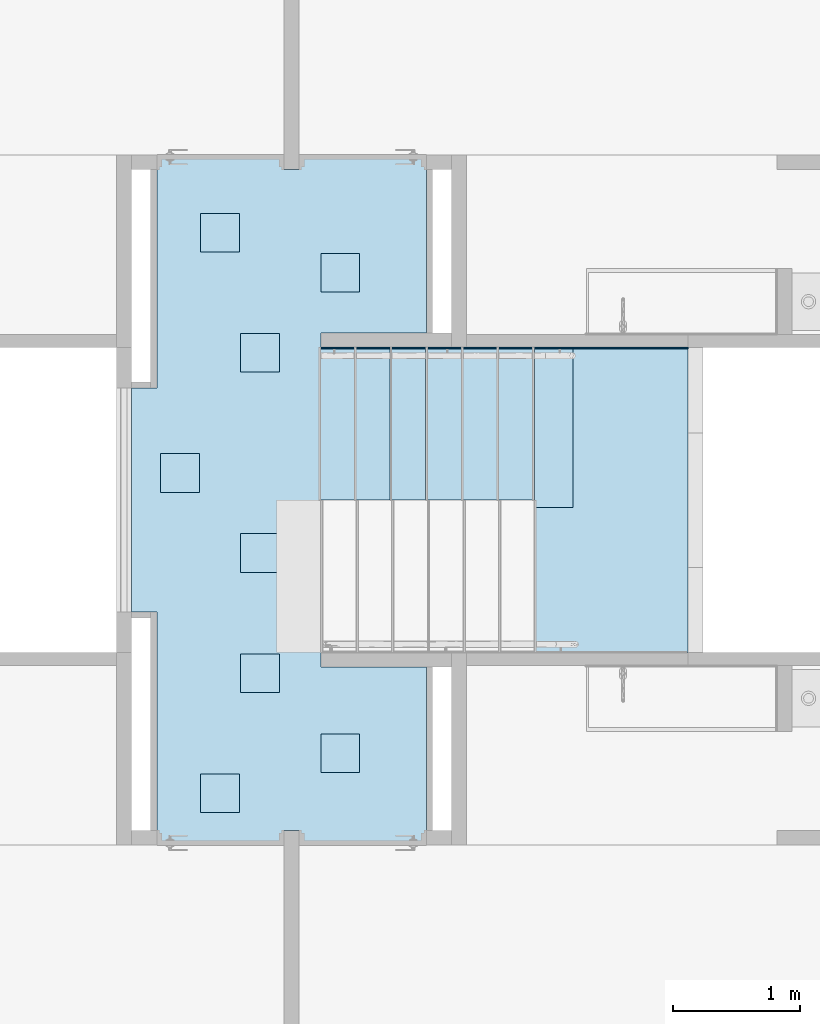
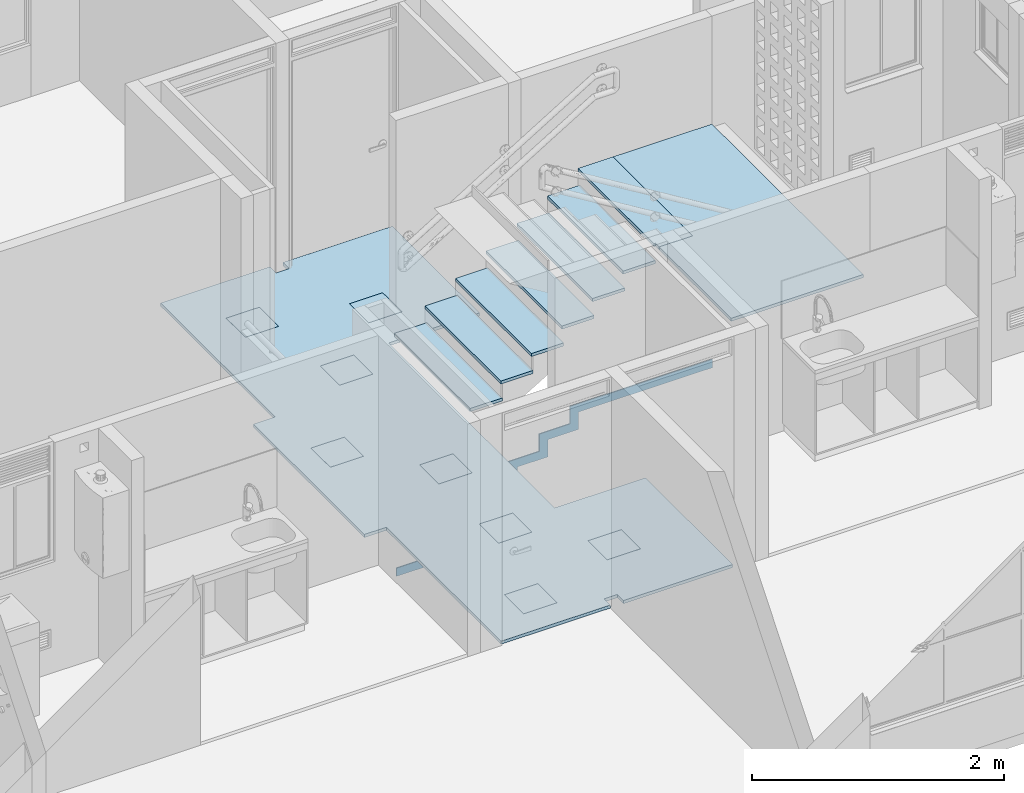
# One storey, part 2 of 48: 11 slabs.
"""IFC4 building model written with IfcOpenShell, lengths in metres."""

from ifc_helpers import new_model, entity, si_unit, converted_unit, derived_unit, direction, frame, origin, place, context, subcontext, project, spatial, indexed_curve, outline, extrude, material, constituent, constituent_set, type_object, element, save


model = new_model("IFC4")

# Units and contexts
model_context = context("Model", 3, precision=1e-05, world=origin(), true_north=direction((6.123031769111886e-17, 1.0)))
body_context = subcontext(model_context, "Body", "Model", "MODEL_VIEW")
ifc_project = project(units=[si_unit("LENGTHUNIT", "METRE"), si_unit("AREAUNIT", "SQUARE_METRE"), si_unit("VOLUMEUNIT", "CUBIC_METRE"), converted_unit("PLANEANGLEUNIT", "DEGREE", entity("IfcRatioMeasure", 0.017453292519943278), si_unit("PLANEANGLEUNIT", "RADIAN"), dimensions=[0, 0, 0, 0, 0, 0, 0]), si_unit("MASSUNIT", "GRAM", prefix="KILO"), derived_unit("MASSDENSITYUNIT", [(si_unit("MASSUNIT", "GRAM", prefix="KILO"), 1), (si_unit("LENGTHUNIT", "METRE"), -3)]), derived_unit("IONCONCENTRATIONUNIT", [(si_unit("MASSUNIT", "GRAM", prefix="KILO"), 1), (si_unit("LENGTHUNIT", "METRE"), -3)]), derived_unit("MOMENTOFINERTIAUNIT", [(si_unit("LENGTHUNIT", "METRE"), 4)]), si_unit("TIMEUNIT", "SECOND"), si_unit("FREQUENCYUNIT", "HERTZ"), si_unit("THERMODYNAMICTEMPERATUREUNIT", "DEGREE_CELSIUS"), derived_unit("THERMALTRANSMITTANCEUNIT", [(si_unit("MASSUNIT", "GRAM", prefix="KILO"), 1), (si_unit("THERMODYNAMICTEMPERATUREUNIT", "KELVIN"), -1), (si_unit("TIMEUNIT", "SECOND"), -3)]), derived_unit("THERMALCONDUCTANCEUNIT", [(si_unit("MASSUNIT", "GRAM", prefix="KILO"), 1), (si_unit("THERMODYNAMICTEMPERATUREUNIT", "KELVIN"), -1), (si_unit("TIMEUNIT", "SECOND"), -3), (si_unit("LENGTHUNIT", "METRE"), 1)]), derived_unit("VOLUMETRICFLOWRATEUNIT", [(si_unit("LENGTHUNIT", "METRE"), 3), (si_unit("TIMEUNIT", "SECOND"), -1)]), derived_unit("MASSFLOWRATEUNIT", [(si_unit("MASSUNIT", "GRAM", prefix="KILO"), 1), (si_unit("TIMEUNIT", "SECOND"), -1)]), derived_unit("ROTATIONALFREQUENCYUNIT", [(si_unit("TIMEUNIT", "SECOND"), -1)]), si_unit("ELECTRICCURRENTUNIT", "AMPERE"), si_unit("ELECTRICVOLTAGEUNIT", "VOLT"), si_unit("POWERUNIT", "WATT"), si_unit("FORCEUNIT", "NEWTON", prefix="KILO"), si_unit("ILLUMINANCEUNIT", "LUX"), si_unit("LUMINOUSFLUXUNIT", "LUMEN"), si_unit("LUMINOUSINTENSITYUNIT", "CANDELA"), derived_unit("USERDEFINED", [(si_unit("MASSUNIT", "GRAM", prefix="KILO"), -1), (si_unit("LENGTHUNIT", "METRE"), -2), (si_unit("TIMEUNIT", "SECOND"), 3), (si_unit("LUMINOUSFLUXUNIT", "LUMEN"), 1)]), derived_unit("USERDEFINED", [(si_unit("MASSUNIT", "GRAM", prefix="KILO"), 1), (si_unit("TIMEUNIT", "SECOND"), -3), (si_unit("LENGTHUNIT", "METRE"), 3), (si_unit("ELECTRICCURRENTUNIT", "AMPERE"), -2)]), derived_unit("SOUNDPOWERUNIT", [(si_unit("MASSUNIT", "GRAM", prefix="KILO"), 1), (si_unit("TIMEUNIT", "SECOND"), -3), (si_unit("LENGTHUNIT", "METRE"), 2)]), derived_unit("SOUNDPRESSUREUNIT", [(si_unit("MASSUNIT", "GRAM", prefix="KILO"), 1), (si_unit("LENGTHUNIT", "METRE"), -1), (si_unit("TIMEUNIT", "SECOND"), -2)]), derived_unit("LINEARVELOCITYUNIT", [(si_unit("LENGTHUNIT", "METRE"), 1), (si_unit("TIMEUNIT", "SECOND"), -1)]), si_unit("PRESSUREUNIT", "PASCAL"), derived_unit("USERDEFINED", [(si_unit("MASSUNIT", "GRAM", prefix="KILO"), 1), (si_unit("LENGTHUNIT", "METRE"), -2), (si_unit("TIMEUNIT", "SECOND"), -2)]), derived_unit("LINEARFORCEUNIT", [(si_unit("MASSUNIT", "GRAM", prefix="KILO"), 1), (si_unit("TIMEUNIT", "SECOND"), -2)]), derived_unit("PLANARFORCEUNIT", [(si_unit("MASSUNIT", "GRAM", prefix="KILO"), 1), (si_unit("LENGTHUNIT", "METRE"), -1), (si_unit("TIMEUNIT", "SECOND"), -2)]), derived_unit("SPECIFICHEATCAPACITYUNIT", [(si_unit("THERMODYNAMICTEMPERATUREUNIT", "KELVIN"), -1), (si_unit("LENGTHUNIT", "METRE"), 2), (si_unit("TIMEUNIT", "SECOND"), -2)]), derived_unit("HEATINGVALUEUNIT", [(si_unit("LENGTHUNIT", "METRE"), 2), (si_unit("TIMEUNIT", "SECOND"), -2)]), derived_unit("VAPORPERMEABILITYUNIT", [(si_unit("LENGTHUNIT", "METRE"), -1), (si_unit("TIMEUNIT", "SECOND"), 1)]), derived_unit("DYNAMICVISCOSITYUNIT", [(si_unit("MASSUNIT", "GRAM", prefix="KILO"), 1), (si_unit("TIMEUNIT", "SECOND"), -1), (si_unit("LENGTHUNIT", "METRE"), -1)]), derived_unit("THERMALEXPANSIONCOEFFICIENTUNIT", [(si_unit("THERMODYNAMICTEMPERATUREUNIT", "KELVIN"), -1)]), derived_unit("MODULUSOFELASTICITYUNIT", [(si_unit("MASSUNIT", "GRAM", prefix="KILO"), 1), (si_unit("LENGTHUNIT", "METRE"), -1), (si_unit("TIMEUNIT", "SECOND"), -2)]), derived_unit("ISOTHERMALMOISTURECAPACITYUNIT", [(si_unit("LENGTHUNIT", "METRE"), 3), (si_unit("MASSUNIT", "GRAM", prefix="KILO"), -1)]), derived_unit("MOISTUREDIFFUSIVITYUNIT", [(si_unit("TIMEUNIT", "SECOND"), -1), (si_unit("LENGTHUNIT", "METRE"), 2)])], contexts=[model_context])

# Site, building, storey
site_placement = place(None, origin())
site = spatial("IfcSite", under=ifc_project, at=site_placement, Name="Default", CompositionType="ELEMENT")
building_placement = place(site_placement, origin())
building = spatial("IfcBuilding", under=site, at=building_placement, CompositionType="ELEMENT")
storey_placement = place(building_placement, frame((0.0, 0.0, 9.40000000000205)))
storey = spatial("IfcBuildingStorey", under=building, at=storey_placement, Name="Nivel 5", CompositionType="ELEMENT", Elevation=9.40000000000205)

# Slabs
ifc_material_1 = material(Name="PISO GRES SAHARA 30X30", Category="Materials")
ifc_constituent_1 = constituent(ifc_material_1, Name="PISO GRES SAHARA 30X30", Category="Materials")
ifc_material_2 = material(Name="Mortero de pega", Category="Materials")
ifc_constituent_2 = constituent(ifc_material_2, Name="Mortero de pega", Category="Materials")
ifc_constituent_set_1 = constituent_set(constituents=[ifc_constituent_1, ifc_constituent_2], Name="Floor:C2030.20 - 30x30- Piso en gres - Gres")
slab_type_1 = type_object("IfcSlabType", Name="Floor:C2030.20 - 30x30- Piso en gres - Gres", PredefinedType="FLOOR", material=ifc_constituent_set_1)
slab_1_placement = place(storey_placement, origin())
element("IfcSlab", 1, at=slab_1_placement, inside=storey, type_object=slab_type_1, material=ifc_constituent_set_1, Name="Floor:C2030.20 - 30x30- Piso en gres - Gres", ObjectType="Floor:C2030.20 - 30x30- Piso en gres - Gres", PredefinedType="FLOOR", context=body_context, shape_type="SweptSolid", body=[
    extrude(outline(indexed_curve([(0.9570000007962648, -0.8799999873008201), (1.15699999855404, -0.879999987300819), (1.156999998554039, 0.8800000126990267), (0.9570000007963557, 0.8800000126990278), (0.9570000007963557, 2.6969999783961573), (-0.04299999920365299, 2.6969999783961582), (-0.04299999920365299, 2.5999999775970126), (-0.16299999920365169, 2.5999999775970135), (-0.16299999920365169, 2.6969999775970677), (-1.16299999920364, 2.6969999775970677), (-1.16299999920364, 1.3150000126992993), (-0.33300000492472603, 1.3150000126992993), (-0.33300000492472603, -1.3149999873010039), (-1.1629999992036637, -1.3149999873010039), (-1.1629999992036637, -2.697000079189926), (-0.16299999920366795, -2.697000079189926), (-0.16299999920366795, -2.599999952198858), (-0.04299999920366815, -2.599999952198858), (-0.04299999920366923, -2.6969999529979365), (0.9570000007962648, -2.6969999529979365), (0.9570000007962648, -0.8799999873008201)], self_intersect=False), holes=[indexed_curve([(0.30699999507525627, 2.1550000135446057), (0.30699999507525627, 2.4600000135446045), (0.6119999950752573, 2.4600000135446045), (0.6119999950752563, 2.1550000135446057), (0.30699999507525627, 2.1550000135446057)], self_intersect=False), indexed_curve([(-0.3330000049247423, 2.14500001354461), (-0.33300000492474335, 1.840000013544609), (-0.6380000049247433, 1.840000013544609), (-0.6380000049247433, 2.14500001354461), (-0.3330000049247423, 2.14500001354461)], self_intersect=False), indexed_curve([(0.29699999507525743, 1.515000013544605), (0.2969999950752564, 1.2100000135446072), (-0.008000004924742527, 1.2100000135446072), (-0.00800000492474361, 1.515000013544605), (0.29699999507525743, 1.515000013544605)], self_intersect=False), indexed_curve([(0.6219999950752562, -0.36499998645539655), (0.6219999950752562, -0.059999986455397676), (0.9269999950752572, -0.059999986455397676), (0.9269999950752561, -0.36499998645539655), (0.6219999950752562, -0.36499998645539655)], self_intersect=False), indexed_curve([(-0.00800000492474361, 0.2650000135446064), (-0.00800000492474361, 0.5700000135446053), (0.29699999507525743, 0.5700000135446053), (0.2969999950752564, 0.2650000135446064), (-0.00800000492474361, 0.2650000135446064)], self_intersect=False), indexed_curve([(-0.00800000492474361, -1.309999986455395), (-0.00800000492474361, -1.004999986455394), (0.29699999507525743, -1.004999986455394), (0.2969999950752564, -1.309999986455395), (-0.00800000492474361, -1.309999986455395)], self_intersect=False), indexed_curve([(-0.3330000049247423, -1.63499998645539), (-0.33300000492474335, -1.9399999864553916), (-0.6380000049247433, -1.9399999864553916), (-0.6380000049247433, -1.63499998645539), (-0.3330000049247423, -1.63499998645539)], self_intersect=False), indexed_curve([(0.30699999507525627, -2.2549999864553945), (0.30699999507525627, -1.9499999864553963), (0.6119999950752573, -1.9499999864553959), (0.6119999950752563, -2.2549999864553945), (0.30699999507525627, -2.2549999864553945)], self_intersect=False)]), frame((9.21950000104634, -6.425000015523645, 0.019999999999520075), z_axis=(0.0, 0.0, 1.0), x_axis=(-1.0, 0.0, 0.0)), (0.0, 0.0, 1.0), 0.009999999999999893),
    extrude(outline(indexed_curve([(0.9570000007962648, -0.8799999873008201), (1.15699999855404, -0.8799999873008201), (1.15699999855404, 0.8800000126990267), (0.9570000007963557, 0.8800000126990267), (0.9570000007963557, 2.6969999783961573), (-0.04299999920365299, 2.6969999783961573), (-0.04299999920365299, 2.5999999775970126), (-0.16299999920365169, 2.5999999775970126), (-0.16299999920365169, 2.6969999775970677), (-1.16299999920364, 2.6969999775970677), (-1.16299999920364, 1.3150000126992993), (-0.33300000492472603, 1.3150000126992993), (-0.33300000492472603, -1.3149999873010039), (-1.1629999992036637, -1.3149999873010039), (-1.1629999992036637, -2.697000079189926), (-0.16299999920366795, -2.697000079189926), (-0.16299999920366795, -2.599999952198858), (-0.04299999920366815, -2.599999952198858), (-0.04299999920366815, -2.6969999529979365), (0.9570000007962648, -2.6969999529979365), (0.9570000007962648, -0.8799999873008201)], self_intersect=False), holes=[indexed_curve([(0.3069999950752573, -2.2549999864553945), (0.3069999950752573, -1.9499999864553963), (0.6119999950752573, -1.9499999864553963), (0.6119999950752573, -2.2549999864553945), (0.3069999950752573, -2.2549999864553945)], self_intersect=False), indexed_curve([(-0.3330000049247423, -1.63499998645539), (-0.3330000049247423, -1.9399999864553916), (-0.6380000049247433, -1.9399999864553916), (-0.6380000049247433, -1.63499998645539), (-0.3330000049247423, -1.63499998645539)], self_intersect=False), indexed_curve([(-0.008000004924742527, -1.309999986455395), (-0.008000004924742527, -1.004999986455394), (0.29699999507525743, -1.004999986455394), (0.29699999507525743, -1.309999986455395), (-0.008000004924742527, -1.309999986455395)], self_intersect=False), indexed_curve([(-0.008000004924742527, 0.2650000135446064), (-0.008000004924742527, 0.5700000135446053), (0.29699999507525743, 0.5700000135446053), (0.29699999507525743, 0.2650000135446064), (-0.008000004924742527, 0.2650000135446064)], self_intersect=False), indexed_curve([(0.6219999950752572, -0.36499998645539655), (0.6219999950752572, -0.059999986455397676), (0.9269999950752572, -0.059999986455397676), (0.9269999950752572, -0.36499998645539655), (0.6219999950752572, -0.36499998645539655)], self_intersect=False), indexed_curve([(0.29699999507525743, 1.515000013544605), (0.29699999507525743, 1.2100000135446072), (-0.008000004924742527, 1.2100000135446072), (-0.008000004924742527, 1.515000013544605), (0.29699999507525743, 1.515000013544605)], self_intersect=False), indexed_curve([(-0.3330000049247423, 2.14500001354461), (-0.3330000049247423, 1.840000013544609), (-0.6380000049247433, 1.840000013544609), (-0.6380000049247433, 2.14500001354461), (-0.3330000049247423, 2.14500001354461)], self_intersect=False), indexed_curve([(0.3069999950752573, 2.1550000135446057), (0.3069999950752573, 2.4600000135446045), (0.6119999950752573, 2.4600000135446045), (0.6119999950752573, 2.1550000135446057), (0.3069999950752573, 2.1550000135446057)], self_intersect=False)]), frame((9.21950000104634, -6.425000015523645, 0.0), z_axis=(0.0, 0.0, 1.0), x_axis=(-1.0, 0.0, 0.0)), (0.0, 0.0, 1.0), 0.019999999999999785),
])
ifc_material_3 = material(Name="escalgres", Category="Materials")
ifc_constituent_3 = constituent(ifc_material_3, Name="escalgres", Category="Materials")
ifc_constituent_4 = constituent(ifc_material_2, Name="Mortero de pega", Category="Materials")
ifc_constituent_set_2 = constituent_set(constituents=[ifc_constituent_3, ifc_constituent_4], Name="Floor:C2030.20 -30x30- Escalgres - Gres")
slab_type_2 = type_object("IfcSlabType", Name="Floor:C2030.20 -30x30- Escalgres - Gres", PredefinedType="FLOOR", material=ifc_constituent_set_2)
slab_2_placement = place(storey_placement, origin())
element("IfcSlab", 2, at=slab_2_placement, inside=storey, type_object=slab_type_2, material=ifc_constituent_set_2, Name="Floor:C2030.20 -30x30- Escalgres - Gres", ObjectType="Floor:C2030.20 -30x30- Escalgres - Gres", PredefinedType="FLOOR", context=body_context, shape_type="SweptSolid", body=[
    extrude(outline(indexed_curve([(-0.14749999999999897, -0.6000000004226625), (0.14750000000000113, -0.6000000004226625), (0.14750000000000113, 0.6000000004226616), (-0.14749999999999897, 0.6000000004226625), (-0.14749999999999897, -0.6000000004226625)], self_intersect=False)), frame((9.685000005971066, -5.825000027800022, 0.18785714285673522), z_axis=(0.0, 0.0, 1.0), x_axis=(-1.0, 0.0, 0.0)), (0.0, 0.0, 1.0), 0.009999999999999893),
    extrude(outline(indexed_curve([(-0.14749999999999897, -0.6000000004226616), (0.14750000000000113, -0.6000000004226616), (0.14750000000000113, 0.6000000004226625), (-0.14749999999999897, 0.6000000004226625), (-0.14749999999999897, -0.6000000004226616)], self_intersect=False)), frame((9.685000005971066, -5.825000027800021, 0.16785714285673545), z_axis=(0.0, 0.0, 1.0), x_axis=(-1.0, 0.0, 0.0)), (0.0, 0.0, 1.0), 0.019999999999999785),
])
slab_3_placement = place(storey_placement, origin())
element("IfcSlab", 3, at=slab_3_placement, inside=storey, type_object=slab_type_2, material=ifc_constituent_set_2, Name="Floor:C2030.20 -30x30- Escalgres - Gres", ObjectType="Floor:C2030.20 -30x30- Escalgres - Gres", PredefinedType="FLOOR", context=body_context, shape_type="SweptSolid", body=[
    extrude(outline(indexed_curve([(-0.14749999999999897, -0.6000000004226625), (0.14750000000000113, -0.6000000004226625), (0.14750000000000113, 0.6000000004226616), (-0.14749999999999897, 0.6000000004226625), (-0.14749999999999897, -0.6000000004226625)], self_intersect=False)), frame((9.965000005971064, -5.825000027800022, 0.3557142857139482), z_axis=(0.0, 0.0, 1.0), x_axis=(-1.0, 0.0, 0.0)), (0.0, 0.0, 1.0), 0.009999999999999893),
    extrude(outline(indexed_curve([(-0.14749999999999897, -0.6000000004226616), (0.14750000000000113, -0.6000000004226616), (0.14750000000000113, 0.6000000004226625), (-0.14749999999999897, 0.6000000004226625), (-0.14749999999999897, -0.6000000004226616)], self_intersect=False)), frame((9.965000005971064, -5.825000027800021, 0.3357142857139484), z_axis=(0.0, 0.0, 1.0), x_axis=(-1.0, 0.0, 0.0)), (0.0, 0.0, 1.0), 0.019999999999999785),
])
slab_4_placement = place(storey_placement, origin())
element("IfcSlab", 4, at=slab_4_placement, inside=storey, type_object=slab_type_2, material=ifc_constituent_set_2, Name="Floor:C2030.20 -30x30- Escalgres - Gres", ObjectType="Floor:C2030.20 -30x30- Escalgres - Gres", PredefinedType="FLOOR", context=body_context, shape_type="SweptSolid", body=[
    extrude(outline(indexed_curve([(-0.14749999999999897, -0.6000000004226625), (0.1474999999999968, -0.6000000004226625), (0.1474999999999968, 0.6000000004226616), (-0.14749999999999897, 0.6000000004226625), (-0.14749999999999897, -0.6000000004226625)], self_intersect=False)), frame((10.245000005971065, -5.825000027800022, 0.5235714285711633), z_axis=(0.0, 0.0, 1.0), x_axis=(-1.0, 0.0, 0.0)), (0.0, 0.0, 1.0), 0.009999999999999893),
    extrude(outline(indexed_curve([(-0.14749999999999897, -0.6000000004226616), (0.1474999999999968, -0.6000000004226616), (0.1474999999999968, 0.6000000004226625), (-0.14749999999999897, 0.6000000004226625), (-0.14749999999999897, -0.6000000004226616)], self_intersect=False)), frame((10.245000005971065, -5.825000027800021, 0.5035714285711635), z_axis=(0.0, 0.0, 1.0), x_axis=(-1.0, 0.0, 0.0)), (0.0, 0.0, 1.0), 0.019999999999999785),
])
slab_5_placement = place(storey_placement, origin())
element("IfcSlab", 5, at=slab_5_placement, inside=storey, type_object=slab_type_2, material=ifc_constituent_set_2, Name="Floor:C2030.20 -30x30- Escalgres - Gres", ObjectType="Floor:C2030.20 -30x30- Escalgres - Gres", PredefinedType="FLOOR", context=body_context, shape_type="SweptSolid", body=[
    extrude(outline(indexed_curve([(-0.14750000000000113, -0.6000000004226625), (0.14750000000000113, -0.6000000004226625), (0.14750000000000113, 0.6000000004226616), (-0.14750000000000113, 0.6000000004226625), (-0.14750000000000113, -0.6000000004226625)], self_intersect=False)), frame((10.525000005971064, -5.825000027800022, 0.6914285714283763), z_axis=(0.0, 0.0, 1.0), x_axis=(-1.0, 0.0, 0.0)), (0.0, 0.0, 1.0), 0.009999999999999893),
    extrude(outline(indexed_curve([(-0.14750000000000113, -0.6000000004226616), (0.14750000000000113, -0.6000000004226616), (0.14750000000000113, 0.6000000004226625), (-0.14750000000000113, 0.6000000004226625), (-0.14750000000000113, -0.6000000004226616)], self_intersect=False)), frame((10.525000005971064, -5.825000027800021, 0.6714285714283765), z_axis=(0.0, 0.0, 1.0), x_axis=(-1.0, 0.0, 0.0)), (0.0, 0.0, 1.0), 0.019999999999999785),
])
slab_6_placement = place(storey_placement, origin())
element("IfcSlab", 6, at=slab_6_placement, inside=storey, type_object=slab_type_2, material=ifc_constituent_set_2, Name="Floor:C2030.20 -30x30- Escalgres - Gres", ObjectType="Floor:C2030.20 -30x30- Escalgres - Gres", PredefinedType="FLOOR", context=body_context, shape_type="SweptSolid", body=[
    extrude(outline(indexed_curve([(-0.14749999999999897, -0.6000000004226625), (0.14750000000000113, -0.6000000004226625), (0.14750000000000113, 0.6000000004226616), (-0.14749999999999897, 0.6000000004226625), (-0.14749999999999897, -0.6000000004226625)], self_intersect=False)), frame((10.805000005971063, -5.825000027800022, 0.8592857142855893), z_axis=(0.0, 0.0, 1.0), x_axis=(-1.0, 0.0, 0.0)), (0.0, 0.0, 1.0), 0.009999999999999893),
    extrude(outline(indexed_curve([(-0.14749999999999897, -0.6000000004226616), (0.14750000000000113, -0.6000000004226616), (0.14750000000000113, 0.6000000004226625), (-0.14749999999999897, 0.6000000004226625), (-0.14749999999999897, -0.6000000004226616)], self_intersect=False)), frame((10.805000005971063, -5.825000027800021, 0.8392857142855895), z_axis=(0.0, 0.0, 1.0), x_axis=(-1.0, 0.0, 0.0)), (0.0, 0.0, 1.0), 0.019999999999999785),
])
slab_7_placement = place(storey_placement, origin())
element("IfcSlab", 7, at=slab_7_placement, inside=storey, type_object=slab_type_2, material=ifc_constituent_set_2, Name="Floor:C2030.20 -30x30- Escalgres - Gres", ObjectType="Floor:C2030.20 -30x30- Escalgres - Gres", PredefinedType="FLOOR", context=body_context, shape_type="SweptSolid", body=[
    extrude(outline(indexed_curve([(-0.14749999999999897, -0.6000000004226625), (0.14749999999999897, -0.6000000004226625), (0.14749999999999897, 0.6000000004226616), (-0.14749999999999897, 0.6000000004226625), (-0.14749999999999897, -0.6000000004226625)], self_intersect=False)), frame((11.085000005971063, -5.825000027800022, 1.0271428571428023), z_axis=(0.0, 0.0, 1.0), x_axis=(-1.0, 0.0, 0.0)), (0.0, 0.0, 1.0), 0.009999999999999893),
    extrude(outline(indexed_curve([(-0.14749999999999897, -0.6000000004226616), (0.14749999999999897, -0.6000000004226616), (0.14749999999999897, 0.6000000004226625), (-0.14749999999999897, 0.6000000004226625), (-0.14749999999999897, -0.6000000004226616)], self_intersect=False)), frame((11.085000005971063, -5.825000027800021, 1.0071428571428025), z_axis=(0.0, 0.0, 1.0), x_axis=(-1.0, 0.0, 0.0)), (0.0, 0.0, 1.0), 0.019999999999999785),
])
slab_8_placement = place(storey_placement, origin())
element("IfcSlab", 8, at=slab_8_placement, inside=storey, type_object=slab_type_2, material=ifc_constituent_set_2, Name="Floor:C2030.20 -30x30- Escalgres - Gres", ObjectType="Floor:C2030.20 -30x30- Escalgres - Gres", PredefinedType="FLOOR", context=body_context, shape_type="SweptSolid", body=[
    extrude(outline(indexed_curve([(-0.5050000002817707, -1.1798333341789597), (0.7050000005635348, -1.1798333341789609), (0.7050000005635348, 1.220166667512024), (-0.20000000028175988, 1.220166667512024), (-0.20000000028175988, -0.040333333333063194), (-0.5050000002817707, -0.040333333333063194), (-0.5050000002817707, -1.1798333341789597)], self_intersect=False)), frame((11.737500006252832, -6.445166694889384, 1.195000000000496)), (0.0, 0.0, 1.0), 0.009999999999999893),
    extrude(outline(indexed_curve([(-0.5050000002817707, -1.1798333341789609), (0.7050000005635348, -1.1798333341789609), (0.7050000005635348, 1.220166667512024), (-0.20000000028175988, 1.220166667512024), (-0.20000000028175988, -0.040333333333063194), (-0.5050000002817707, -0.040333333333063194), (-0.5050000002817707, -1.1798333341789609)], self_intersect=False)), frame((11.737500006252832, -6.445166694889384, 1.1750000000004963)), (0.0, 0.0, 1.0), 0.019999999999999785),
])
slab_9_placement = place(storey_placement, origin())
element("IfcSlab", 9, at=slab_9_placement, inside=storey, type_object=slab_type_2, material=ifc_constituent_set_2, Name="Floor:C2030.20 -30x30- Escalgres - Gres", ObjectType="Floor:C2030.20 -30x30- Escalgres - Gres", PredefinedType="FLOOR", context=body_context, shape_type="SweptSolid", body=[
    extrude(outline(indexed_curve([(-0.09666666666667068, -0.44033333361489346), (0.20833333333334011, -0.44033333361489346), (0.20833333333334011, 0.8201666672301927), (-0.11166666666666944, 0.8201666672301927), (-0.11166666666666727, -0.37983333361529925), (-0.09666666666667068, -0.37983333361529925), (-0.09666666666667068, -0.44033333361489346)], self_intersect=False)), frame((11.329166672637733, -6.045166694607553, 1.1950000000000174)), (0.0, 0.0, 1.0), 0.009999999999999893),
    extrude(outline(indexed_curve([(-0.09666666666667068, -0.44033333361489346), (0.20833333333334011, -0.44033333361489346), (0.20833333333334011, 0.8201666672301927), (-0.11166666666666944, 0.8201666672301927), (-0.11166666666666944, -0.37983333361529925), (-0.09666666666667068, -0.37983333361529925), (-0.09666666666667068, -0.44033333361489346)], self_intersect=False)), frame((11.329166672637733, -6.045166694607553, 1.1750000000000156)), (0.0, 0.0, 1.0), 0.019999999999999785),
])
ifc_material_4 = material(Name="PISO GRES moca 30X30", Category="Materials")
ifc_constituent_5 = constituent(ifc_material_4, Name="PISO GRES moca 30X30", Category="Materials")
ifc_constituent_6 = constituent(ifc_material_2, Name="Mortero de pega", Category="Materials")
ifc_constituent_set_3 = constituent_set(constituents=[ifc_constituent_5, ifc_constituent_6], Name="Floor:C2030.20 - Piso en gres - Gres moca")
slab_type_3 = type_object("IfcSlabType", Name="Floor:C2030.20 - Piso en gres - Gres moca", PredefinedType="FLOOR", material=ifc_constituent_set_3)
slab_10_placement = place(storey_placement, origin())
element("IfcSlab", 10, at=slab_10_placement, inside=storey, type_object=slab_type_3, material=ifc_constituent_set_3, Name="Floor:C2030.20 - Piso en gres - Gres moca", ObjectType="Floor:C2030.20 - Piso en gres - Gres moca", PredefinedType="FLOOR", context=body_context, shape_type="SweptSolid", body=[
    extrude(outline(indexed_curve([(-0.15249999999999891, -0.15250000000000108), (0.15249999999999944, -0.1525), (0.1525, 0.15249999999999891), (-0.15249999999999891, 0.1525), (-0.15249999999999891, -0.15250000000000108)], self_intersect=False)), frame((8.760000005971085, -4.32250002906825, 0.019999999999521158), z_axis=(0.0, 0.0, 1.0), x_axis=(0.0, -1.0, 0.0)), (0.0, 0.0, 1.0), 0.009999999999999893),
    extrude(outline(indexed_curve([(-0.15250000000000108, -0.15250000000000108), (0.1525, -0.15250000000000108), (0.1525, 0.15250000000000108), (-0.15250000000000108, 0.15250000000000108), (-0.15250000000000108, -0.15250000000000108)], self_intersect=False)), frame((9.705000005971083, -4.637500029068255, 0.019999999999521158)), (0.0, 0.0, 1.0), 0.009999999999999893),
    extrude(outline(indexed_curve([(-0.15249999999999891, -0.15250000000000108), (0.15250000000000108, -0.15250000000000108), (0.1525, 0.1525), (-0.15249999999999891, 0.1525), (-0.15249999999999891, -0.15250000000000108)], self_intersect=False)), frame((9.075000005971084, -5.267500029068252, 0.019999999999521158), z_axis=(0.0, 0.0, 1.0), x_axis=(-1.0, 0.0, 0.0)), (0.0, 0.0, 1.0), 0.009999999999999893),
    extrude(outline(indexed_curve([(-0.1525, -0.15250000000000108), (0.15249999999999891, -0.1525), (0.15249999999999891, 0.15249999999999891), (-0.1525, 0.1525), (-0.1525, -0.15250000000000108)], self_intersect=False)), frame((8.445000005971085, -6.212500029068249, 0.019999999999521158), z_axis=(0.0, 0.0, 1.0), x_axis=(0.0, -1.0, 0.0)), (0.0, 0.0, 1.0), 0.009999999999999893),
    extrude(outline(indexed_curve([(-0.1525, -0.1525), (0.15249999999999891, -0.1525), (0.15249999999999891, 0.15250000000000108), (-0.1525, 0.1525), (-0.1525, -0.1525)], self_intersect=False)), frame((9.075000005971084, -6.842500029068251, 0.019999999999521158), z_axis=(0.0, 0.0, 1.0), x_axis=(0.0, 1.0, 0.0)), (0.0, 0.0, 1.0), 0.009999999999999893),
    extrude(outline(indexed_curve([(-0.1525, -0.1525), (0.15249999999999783, -0.1525), (0.15249999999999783, 0.15250000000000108), (-0.1525, 0.1525), (-0.1525, -0.1525)], self_intersect=False)), frame((9.075000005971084, -7.787500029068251, 0.019999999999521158), z_axis=(0.0, 0.0, 1.0), x_axis=(0.0, 1.0, 0.0)), (0.0, 0.0, 1.0), 0.009999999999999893),
    extrude(outline(indexed_curve([(-0.1525, -0.15250000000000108), (0.15250000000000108, -0.15250000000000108), (0.1525, 0.1525), (-0.1525, 0.15250000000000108), (-0.1525, -0.15250000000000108)], self_intersect=False)), frame((9.705000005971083, -8.417500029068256, 0.019999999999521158), z_axis=(0.0, 0.0, 1.0), x_axis=(-1.0, 0.0, 0.0)), (0.0, 0.0, 1.0), 0.009999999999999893),
    extrude(outline(indexed_curve([(-0.15249999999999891, -0.15250000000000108), (0.1525, -0.1525), (0.1525, 0.15249999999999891), (-0.15249999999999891, 0.1525), (-0.15249999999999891, -0.15250000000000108)], self_intersect=False)), frame((8.760000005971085, -8.73250002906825, 0.019999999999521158), z_axis=(0.0, 0.0, 1.0), x_axis=(0.0, -1.0, 0.0)), (0.0, 0.0, 1.0), 0.009999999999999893),
    extrude(outline(indexed_curve([(-0.15249999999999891, -0.1525), (0.15249999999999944, -0.1525), (0.15249999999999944, 0.1525), (-0.15249999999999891, 0.1525), (-0.15249999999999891, -0.1525)], self_intersect=False)), frame((8.760000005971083, -4.32250002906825, 0.0), z_axis=(0.0, 0.0, 1.0), x_axis=(0.0, -1.0, 0.0)), (0.0, 0.0, 1.0), 0.019999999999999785),
    extrude(outline(indexed_curve([(-0.15250000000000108, -0.15250000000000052), (0.1525, -0.15250000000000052), (0.1525, 0.15250000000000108), (-0.15250000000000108, 0.15250000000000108), (-0.15250000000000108, -0.15250000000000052)], self_intersect=False)), frame((9.705000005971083, -4.637500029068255, 0.0)), (0.0, 0.0, 1.0), 0.019999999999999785),
    extrude(outline(indexed_curve([(-0.1525, -0.15250000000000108), (0.1525, -0.15250000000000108), (0.1525, 0.1525), (-0.1525, 0.1525), (-0.1525, -0.15250000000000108)], self_intersect=False)), frame((9.075000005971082, -5.267500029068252, 0.0), z_axis=(0.0, 0.0, 1.0), x_axis=(-1.0, 0.0, 0.0)), (0.0, 0.0, 1.0), 0.019999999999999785),
    extrude(outline(indexed_curve([(-0.1525, -0.1525), (0.15249999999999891, -0.1525), (0.15249999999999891, 0.1525), (-0.1525, 0.1525), (-0.1525, -0.1525)], self_intersect=False)), frame((8.445000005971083, -6.212500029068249, 0.0), z_axis=(0.0, 0.0, 1.0), x_axis=(0.0, -1.0, 0.0)), (0.0, 0.0, 1.0), 0.019999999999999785),
    extrude(outline(indexed_curve([(-0.1525, -0.1525), (0.15249999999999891, -0.1525), (0.15249999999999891, 0.1525), (-0.1525, 0.1525), (-0.1525, -0.1525)], self_intersect=False)), frame((9.075000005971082, -6.842500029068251, 0.0), z_axis=(0.0, 0.0, 1.0), x_axis=(0.0, 1.0, 0.0)), (0.0, 0.0, 1.0), 0.019999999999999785),
    extrude(outline(indexed_curve([(-0.1525, -0.1525), (0.15249999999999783, -0.1525), (0.15249999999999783, 0.1525), (-0.1525, 0.1525), (-0.1525, -0.1525)], self_intersect=False)), frame((9.075000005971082, -7.787500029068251, 0.0), z_axis=(0.0, 0.0, 1.0), x_axis=(0.0, 1.0, 0.0)), (0.0, 0.0, 1.0), 0.019999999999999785),
    extrude(outline(indexed_curve([(-0.15249999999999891, -0.1525), (0.1525, -0.1525), (0.1525, 0.1525), (-0.15249999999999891, 0.1525), (-0.15249999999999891, -0.1525)], self_intersect=False)), frame((8.760000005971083, -8.73250002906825, 0.0), z_axis=(0.0, 0.0, 1.0), x_axis=(0.0, -1.0, 0.0)), (0.0, 0.0, 1.0), 0.019999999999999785),
    extrude(outline(indexed_curve([(-0.1525, -0.15250000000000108), (0.15250000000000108, -0.15250000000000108), (0.15250000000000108, 0.1525), (-0.1525, 0.1525), (-0.1525, -0.15250000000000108)], self_intersect=False)), frame((9.705000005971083, -8.417500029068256, 0.0), z_axis=(0.0, 0.0, 1.0), x_axis=(-1.0, 0.0, 0.0)), (0.0, 0.0, 1.0), 0.019999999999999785),
])
ifc_material_5 = material(Name="PISO GRES SAHARA 30X30 guardaescoba sin hatch", Category="Materials")
slab_type_4 = type_object("IfcSlabType", Name="Floors 5:Floors 1", PredefinedType="FLOOR", material=ifc_material_5)
slab_11_placement = place(storey_placement, origin())
element("IfcSlab", 11, at=slab_11_placement, inside=storey, type_object=slab_type_4, Name="Floors 5:Floors 1", ObjectType="Floors 5:Floors 1", PredefinedType="FLOOR", context=body_context, shape_type="SweptSolid", body=[
    extrude(outline(indexed_curve([(-1.8907142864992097, -0.4635714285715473), (-1.8907142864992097, -0.5435714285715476), (-0.5857142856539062, -0.5435714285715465), (-0.5857142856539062, -0.3757142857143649), (-0.3057142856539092, -0.3757142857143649), (-0.3057142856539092, -0.2078571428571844), (-0.025714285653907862, -0.2078571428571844), (-0.025714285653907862, -0.040000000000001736), (0.25428571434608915, -0.040000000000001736), (0.25428571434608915, 0.12785714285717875), (0.5342857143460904, 0.12785714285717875), (0.5342857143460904, 0.2957142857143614), (0.8142857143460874, 0.2957142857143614), (0.8142857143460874, 0.46357142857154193), (0.9992857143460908, 0.46357142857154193), (0.9992857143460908, 0.5435714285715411), (0.7342857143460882, 0.5435714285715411), (0.7342857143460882, 0.37571428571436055), (0.45428571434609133, 0.37571428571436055), (0.45428571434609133, 0.2078571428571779), (0.17428571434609, 0.2078571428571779), (0.17428571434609, 0.039999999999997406), (-0.105714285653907, 0.039999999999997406), (-0.105714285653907, -0.12785714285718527), (-0.3857142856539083, -0.12785714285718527), (-0.3857142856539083, -0.29571428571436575), (-0.6657142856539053, -0.29571428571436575), (-0.6657142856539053, -0.4635714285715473), (-1.8907142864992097, -0.4635714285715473)], self_intersect=False)), frame((10.551680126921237, -5.235000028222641, -1.6085714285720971), z_axis=(0.0, -1.0, 0.0), x_axis=(-1.0, 0.0, 0.0)), (0.0, 0.0, -1.0), 0.009999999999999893),
])

save(model, "model.ifc")
